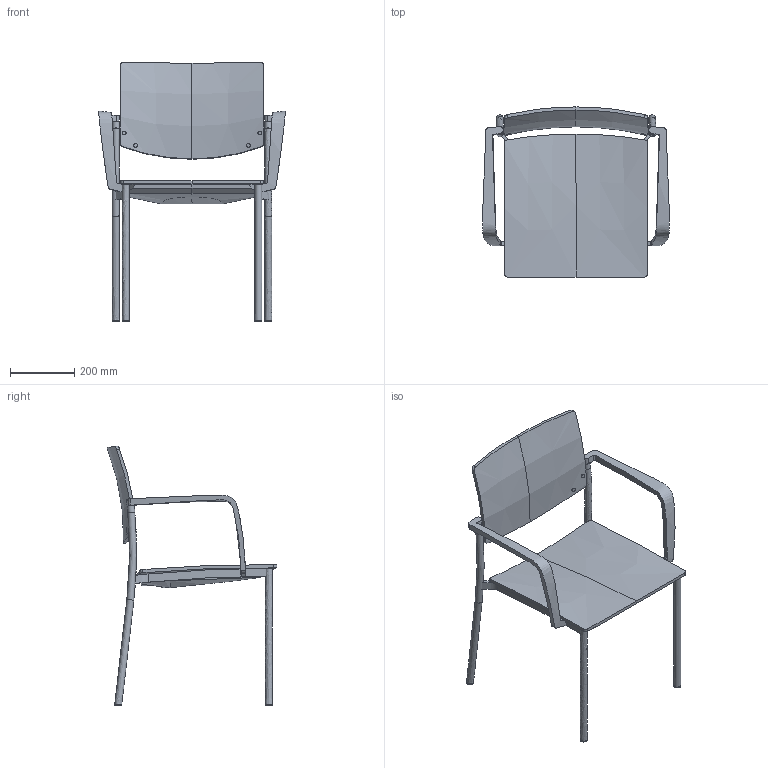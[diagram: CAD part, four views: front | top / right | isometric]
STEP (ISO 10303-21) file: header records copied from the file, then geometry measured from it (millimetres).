
FILE_DESCRIPTION(/* description */ (''),/* implementation_level */ '2;1');
FILE_NAME(/* name */ 'Seance 092-BR',/* time_stamp */ '2020-03-26T10:15:53+01:00',/* author */ (''),/* organization */ (''),/* preprocessor_version */ 'ST-DEVELOPER v16.5',/* originating_system */ '',/* authorisation */ '');
FILE_SCHEMA (('AUTOMOTIVE_DESIGN'));
Length unit declared in the file: millimetre
Products named in the file (1): Document
Bounding box: 580.87 x 528.45 x 807.99 mm (x, y, z)
Volume: 3484796.7 mm3; surface area: 1218112.3 mm2
Topology: 10 solids, 21 shells, 132 faces, 299 edges, 197 vertices
Faces by surface type: bspline 88, plane 44
Entity records: 6955 total; most frequent: CARTESIAN_POINT 4962, ORIENTED_EDGE 570, EDGE_CURVE 296, B_SPLINE_CURVE_WITH_KNOTS 212, VERTEX_POINT 191, ADVANCED_FACE 132, FACE_OUTER_BOUND 132, EDGE_LOOP 132
